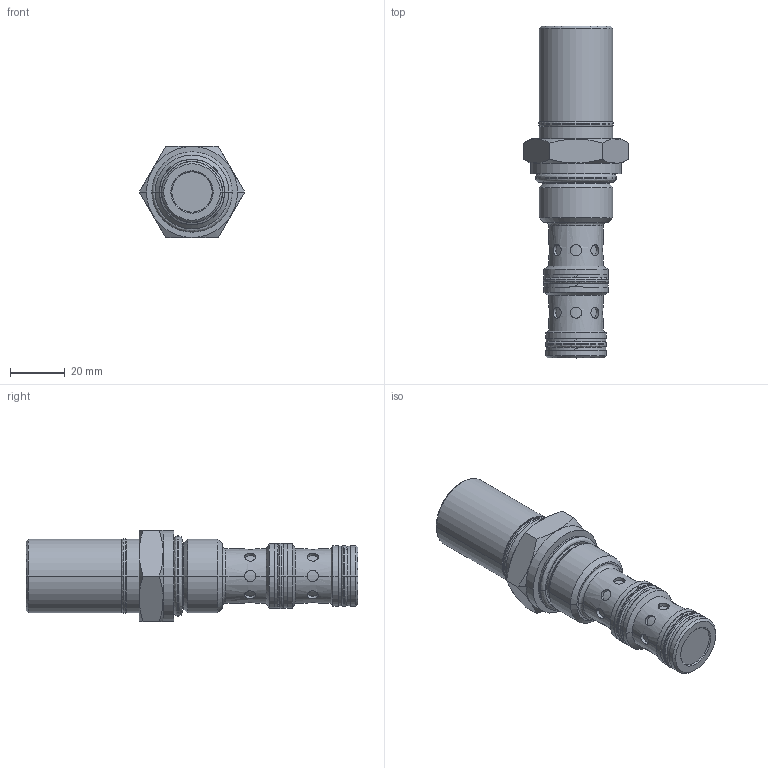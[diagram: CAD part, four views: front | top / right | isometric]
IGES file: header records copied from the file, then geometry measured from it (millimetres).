
Start section:  PTC IGES file: AODV-12-3_-1P.igs
Global section: file name: AODV-12-3_-1P.igs; native system: Creo Elements/Pro by Parametric Technology Corporation; preprocessor: 2015070; author: torrese; organization: Unknown; date: 20151223.110509; units: inch
Bounding box: 38.48 x 121.28 x 33.32 mm (x, y, z)
Volume: 62088.3 mm3; surface area: 12845.9 mm2
Topology: 1 solids, 1 shells, 179 faces, 384 edges, 232 vertices
Faces by surface type: revolution 145, bspline 34
